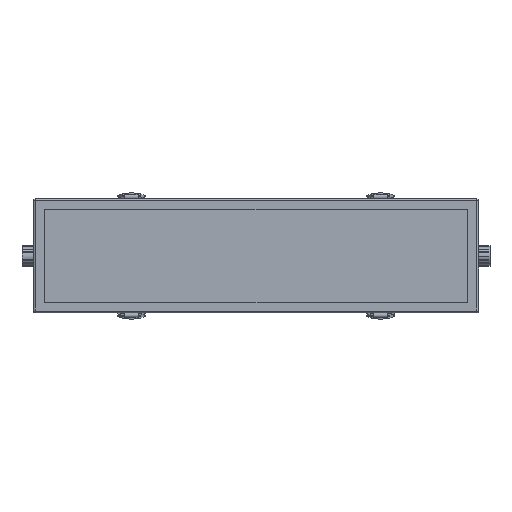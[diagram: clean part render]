
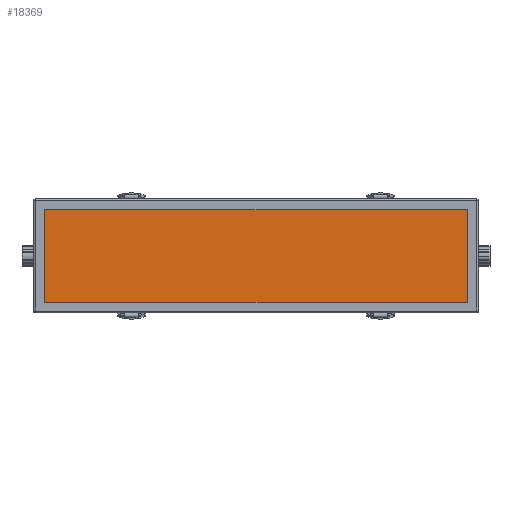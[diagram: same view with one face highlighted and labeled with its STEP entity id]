
A CAD part, top view. The second image highlights one B-rep face of the part: STEP entity #18369.
In plain terms, the highlighted planar face has unit normal (0, 0, 1).
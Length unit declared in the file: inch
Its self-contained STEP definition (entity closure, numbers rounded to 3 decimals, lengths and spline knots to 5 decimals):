
#59 = CARTESIAN_POINT ( 'NONE',  ( 0., 0., 1.01 ) ) ;
#724 = VERTEX_POINT ( 'NONE', #8632 ) ;
#992 = CARTESIAN_POINT ( 'NONE',  ( -11.8, 2.5, 1.01 ) ) ;
#3423 = DIRECTION ( 'NONE',  ( 1., 0., 0. ) ) ;
#3527 = VERTEX_POINT ( 'NONE', #38951 ) ;
#4188 = CARTESIAN_POINT ( 'NONE',  ( 11.9, 0., 1.01 ) ) ;
#4349 = CARTESIAN_POINT ( 'NONE',  ( 11.8, -2.5, 1.01 ) ) ;
#4379 = DIRECTION ( 'NONE',  ( 1., 0., 0. ) ) ;
#4818 = VERTEX_POINT ( 'NONE', #17762 ) ;
#5200 = AXIS2_PLACEMENT_3D ( 'NONE', #4349, #27602, #7650 ) ;
#5663 = CIRCLE ( 'NONE', #13779, 0.1 ) ;
#6405 = ORIENTED_EDGE ( 'NONE', *, *, #41334, .T. ) ;
#6611 = PLANE ( 'NONE',  #18937 ) ;
#6631 = EDGE_CURVE ( 'NONE', #25226, #9976, #38247, .T. ) ;
#7650 = DIRECTION ( 'NONE',  ( 1., 0., 0. ) ) ;
#7833 = CIRCLE ( 'NONE', #10168, 0.1 ) ;
#8632 = CARTESIAN_POINT ( 'NONE',  ( 11.9, 2.5, 1.01 ) ) ;
#8742 = VECTOR ( 'NONE', #16826, 39.37008 ) ;
#9011 = CARTESIAN_POINT ( 'NONE',  ( 11.8, 2.5, 1.01 ) ) ;
#9976 = VERTEX_POINT ( 'NONE', #17682 ) ;
#10168 = AXIS2_PLACEMENT_3D ( 'NONE', #9011, #32332, #12366 ) ;
#10621 = ORIENTED_EDGE ( 'NONE', *, *, #13548, .T. ) ;
#10762 = CIRCLE ( 'NONE', #5200, 0.1 ) ;
#12299 = EDGE_CURVE ( 'NONE', #3527, #15686, #16652, .T. ) ;
#12366 = DIRECTION ( 'NONE',  ( 1., 0., 0. ) ) ;
#12542 = VECTOR ( 'NONE', #23499, 39.37008 ) ;
#13548 = EDGE_CURVE ( 'NONE', #9976, #16113, #5663, .T. ) ;
#13779 = AXIS2_PLACEMENT_3D ( 'NONE', #18387, #41647, #21751 ) ;
#14381 = EDGE_CURVE ( 'NONE', #4818, #724, #37297, .T. ) ;
#14390 = EDGE_CURVE ( 'NONE', #39892, #4818, #10762, .T. ) ;
#15526 = ORIENTED_EDGE ( 'NONE', *, *, #12299, .T. ) ;
#15686 = VERTEX_POINT ( 'NONE', #36239 ) ;
#16113 = VERTEX_POINT ( 'NONE', #41638 ) ;
#16652 = LINE ( 'NONE', #23790, #12542 ) ;
#16826 = DIRECTION ( 'NONE',  ( 1., 0., 0. ) ) ;
#17682 = CARTESIAN_POINT ( 'NONE',  ( -11.9, -2.5, 1.01 ) ) ;
#17762 = CARTESIAN_POINT ( 'NONE',  ( 11.9, -2.5, 1.01 ) ) ;
#18369 = ADVANCED_FACE ( 'NONE', ( #30798 ), #6611, .T. ) ;
#18387 = CARTESIAN_POINT ( 'NONE',  ( -11.8, -2.5, 1.01 ) ) ;
#18684 = CARTESIAN_POINT ( 'NONE',  ( 11.8, -2.6, 1.01 ) ) ;
#18937 = AXIS2_PLACEMENT_3D ( 'NONE', #59, #23337, #3423 ) ;
#20522 = VECTOR ( 'NONE', #38868, 39.37008 ) ;
#21751 = DIRECTION ( 'NONE',  ( 1., 0., 0. ) ) ;
#23337 = DIRECTION ( 'NONE',  ( 0., 0., 1. ) ) ;
#23499 = DIRECTION ( 'NONE',  ( -1., 0., 0. ) ) ;
#23586 = ORIENTED_EDGE ( 'NONE', *, *, #6631, .T. ) ;
#23790 = CARTESIAN_POINT ( 'NONE',  ( 0., 2.6, 1.01 ) ) ;
#24102 = DIRECTION ( 'NONE',  ( 0., 1., 0. ) ) ;
#24290 = DIRECTION ( 'NONE',  ( 0., 0., 1. ) ) ;
#25226 = VERTEX_POINT ( 'NONE', #42383 ) ;
#26361 = EDGE_LOOP ( 'NONE', ( #39772, #15526, #40185, #23586, #10621, #6405, #30992, #39393 ) ) ;
#26618 = EDGE_CURVE ( 'NONE', #15686, #25226, #35070, .T. ) ;
#27602 = DIRECTION ( 'NONE',  ( 0., 0., 1. ) ) ;
#28495 = VECTOR ( 'NONE', #24102, 39.37008 ) ;
#30196 = AXIS2_PLACEMENT_3D ( 'NONE', #992, #24290, #4379 ) ;
#30798 = FACE_OUTER_BOUND ( 'NONE', #26361, .T. ) ;
#30992 = ORIENTED_EDGE ( 'NONE', *, *, #14390, .T. ) ;
#31234 = EDGE_CURVE ( 'NONE', #724, #3527, #7833, .T. ) ;
#32332 = DIRECTION ( 'NONE',  ( 0., 0., 1. ) ) ;
#34253 = LINE ( 'NONE', #36786, #8742 ) ;
#35070 = CIRCLE ( 'NONE', #30196, 0.1 ) ;
#36239 = CARTESIAN_POINT ( 'NONE',  ( -11.8, 2.6, 1.01 ) ) ;
#36691 = CARTESIAN_POINT ( 'NONE',  ( -11.9, 0., 1.01 ) ) ;
#36786 = CARTESIAN_POINT ( 'NONE',  ( 0., -2.6, 1.01 ) ) ;
#37297 = LINE ( 'NONE', #4188, #28495 ) ;
#38247 = LINE ( 'NONE', #36691, #20522 ) ;
#38868 = DIRECTION ( 'NONE',  ( 0., -1., 0. ) ) ;
#38951 = CARTESIAN_POINT ( 'NONE',  ( 11.8, 2.6, 1.01 ) ) ;
#39393 = ORIENTED_EDGE ( 'NONE', *, *, #14381, .T. ) ;
#39772 = ORIENTED_EDGE ( 'NONE', *, *, #31234, .T. ) ;
#39892 = VERTEX_POINT ( 'NONE', #18684 ) ;
#40185 = ORIENTED_EDGE ( 'NONE', *, *, #26618, .T. ) ;
#41334 = EDGE_CURVE ( 'NONE', #16113, #39892, #34253, .T. ) ;
#41638 = CARTESIAN_POINT ( 'NONE',  ( -11.8, -2.6, 1.01 ) ) ;
#41647 = DIRECTION ( 'NONE',  ( 0., 0., 1. ) ) ;
#42383 = CARTESIAN_POINT ( 'NONE',  ( -11.9, 2.5, 1.01 ) ) ;
